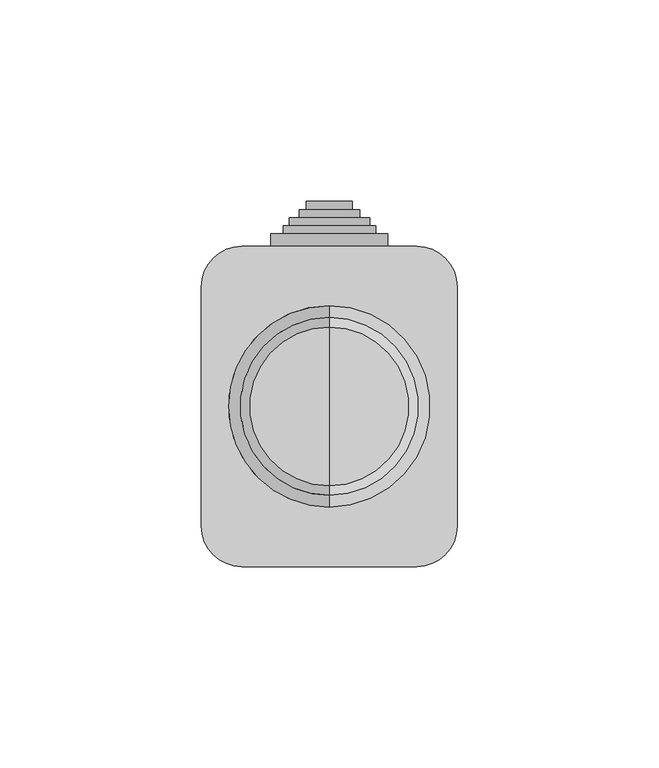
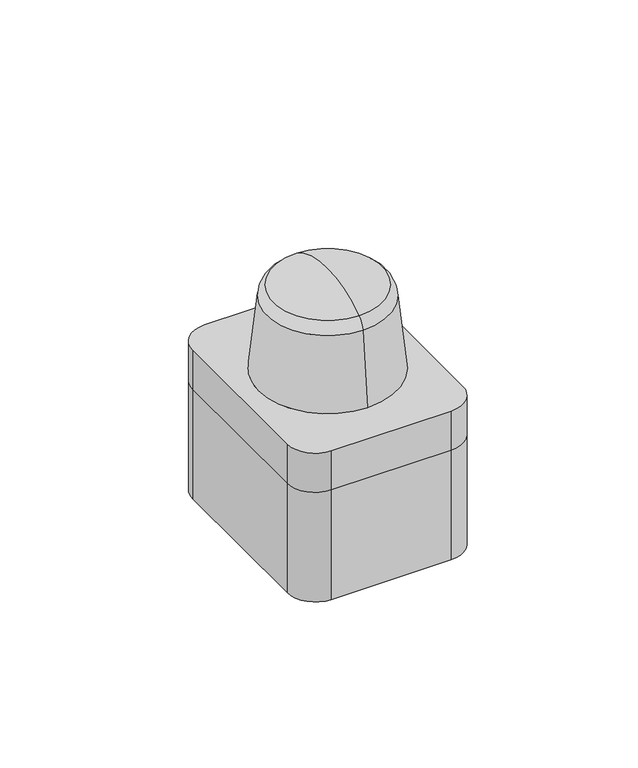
"""IFC4 building model written with IfcOpenShell, lengths in millimetres: cable carrier fitting geometry."""

from ifc_helpers import new_model, si_unit, point, frame, frame_2d, origin, origin_with_axes, place, context, project, spatial, polyline, circle_curve, ellipse_curve, trimmed, segment, composite_curve, outline, extrude, source, transform, mapped, element, save
from ifc_brep_helpers import plane_surface, cylinder_surface, revolved_surface, advanced_brep


def cable_carrier_fitting_e7482c49(model_context):
    return source(origin(), model_context, "Body", "SolidModel", [
        advanced_brep(
        [(-11.5, 37.875, 16.875), (11.5, 37.875, 16.875), (14.5, 37.875, 16.875), (-14.5, 37.875, 16.875), (-11.5, 39.875, 16.875), (11.5, 39.875, 16.875), (-14.5, 39.875, 16.875), (14.5, 39.875, 16.875), (-14.5, 42.875, 16.875), (14.5, 42.875, 16.875), (-11.5, 42.875, 16.875), (11.5, 42.875, 16.875), (-11.5, 44.875, 16.875), (11.5, 44.875, 16.875), (-10.0, 44.875, 16.875), (10.0, 44.875, 16.875), (-10.0, 46.875, 16.875), (10.0, 46.875, 16.875), (-7.5, 46.875, 16.875), (7.5, 46.875, 16.875), (-7.5, 48.875, 16.875), (7.5, 48.875, 16.875), (-5.75, 48.875, 16.875), (5.75, 48.875, 16.875), (-5.75, 50.875, 16.875), (5.75, 50.875, 16.875), (0.0, 50.875, 16.875), (-11.5, 34.875, 16.875), (11.5, 34.875, 16.875), (0.0, 34.875, 16.875), (-14.5, 35.6241137, 16.875), (14.5, 35.6241137, 16.875)],
        [
            (0, 1, circle_curve(frame((0.0, 37.875, 16.875), z_axis=(0.0, -1.0, 0.0), x_axis=(1.0, 0.0, 0.0)), 11.5)),
            (1, 2),
            (2, 3, circle_curve(frame((0.0, 37.875, 16.875), z_axis=(0.0, 1.0, 0.0), x_axis=(1.0, 0.0, 0.0)), 14.5)),
            (3, 0),
            (1, 0, circle_curve(frame((0.0, 37.875, 16.875), z_axis=(0.0, -1.0, 0.0), x_axis=(1.0, 0.0, 0.0)), 11.5)),
            (3, 2, circle_curve(frame((0.0, 37.875, 16.875), z_axis=(0.0, 1.0, 0.0), x_axis=(1.0, 0.0, 0.0)), 14.5)),
            (4, 5, circle_curve(frame((0.0, 39.875, 16.875), z_axis=(0.0, -1.0, 0.0), x_axis=(1.0, 0.0, 0.0)), 11.5)),
            (5, 1),
            (0, 4),
            (5, 4, circle_curve(frame((0.0, 39.875, 16.875), z_axis=(0.0, -1.0, 0.0), x_axis=(1.0, 0.0, 0.0)), 11.5)),
            (6, 7, circle_curve(frame((0.0, 39.875, 16.875), z_axis=(0.0, -1.0, 0.0), x_axis=(1.0, 0.0, 0.0)), 14.5)),
            (7, 5),
            (4, 6),
            (7, 6, circle_curve(frame((0.0, 39.875, 16.875), z_axis=(0.0, -1.0, 0.0), x_axis=(1.0, 0.0, 0.0)), 14.5)),
            (8, 9, circle_curve(frame((0.0, 42.875, 16.875), z_axis=(0.0, -1.0, 0.0), x_axis=(1.0, 0.0, 0.0)), 14.5)),
            (9, 7),
            (6, 8),
            (9, 8, circle_curve(frame((0.0, 42.875, 16.875), z_axis=(0.0, -1.0, 0.0), x_axis=(1.0, 0.0, 0.0)), 14.5)),
            (10, 11, circle_curve(frame((0.0, 42.875, 16.875), z_axis=(0.0, -1.0, 0.0), x_axis=(1.0, 0.0, 0.0)), 11.5)),
            (11, 9),
            (8, 10),
            (11, 10, circle_curve(frame((0.0, 42.875, 16.875), z_axis=(0.0, -1.0, 0.0), x_axis=(1.0, 0.0, 0.0)), 11.5)),
            (12, 13, circle_curve(frame((0.0, 44.875, 16.875), z_axis=(0.0, -1.0, 0.0), x_axis=(1.0, 0.0, 0.0)), 11.5)),
            (13, 11),
            (10, 12),
            (13, 12, circle_curve(frame((0.0, 44.875, 16.875), z_axis=(0.0, -1.0, 0.0), x_axis=(1.0, 0.0, 0.0)), 11.5)),
            (14, 15, circle_curve(frame((0.0, 44.875, 16.875), z_axis=(0.0, -1.0, 0.0), x_axis=(1.0, 0.0, 0.0)), 10.0)),
            (15, 13),
            (12, 14),
            (15, 14, circle_curve(frame((0.0, 44.875, 16.875), z_axis=(0.0, -1.0, 0.0), x_axis=(1.0, 0.0, 0.0)), 10.0)),
            (16, 17, circle_curve(frame((0.0, 46.875, 16.875), z_axis=(0.0, -1.0, 0.0), x_axis=(1.0, 0.0, 0.0)), 10.0)),
            (17, 15),
            (14, 16),
            (17, 16, circle_curve(frame((0.0, 46.875, 16.875), z_axis=(0.0, -1.0, 0.0), x_axis=(1.0, 0.0, 0.0)), 10.0)),
            (18, 19, circle_curve(frame((0.0, 46.875, 16.875), z_axis=(0.0, -1.0, 0.0), x_axis=(1.0, 0.0, 0.0)), 7.5)),
            (19, 17),
            (16, 18),
            (19, 18, circle_curve(frame((0.0, 46.875, 16.875), z_axis=(0.0, -1.0, 0.0), x_axis=(1.0, 0.0, 0.0)), 7.5)),
            (20, 21, circle_curve(frame((0.0, 48.875, 16.875), z_axis=(0.0, -1.0, 0.0), x_axis=(1.0, 0.0, 0.0)), 7.5)),
            (21, 19),
            (18, 20),
            (21, 20, circle_curve(frame((0.0, 48.875, 16.875), z_axis=(0.0, -1.0, 0.0), x_axis=(1.0, 0.0, 0.0)), 7.5)),
            (22, 23, circle_curve(frame((0.0, 48.875, 16.875), z_axis=(0.0, -1.0, 0.0), x_axis=(1.0, 0.0, 0.0)), 5.75)),
            (23, 21),
            (20, 22),
            (23, 22, circle_curve(frame((0.0, 48.875, 16.875), z_axis=(0.0, -1.0, 0.0), x_axis=(1.0, 0.0, 0.0)), 5.75)),
            (24, 25, circle_curve(frame((0.0, 50.875, 16.875), z_axis=(0.0, -1.0, 0.0), x_axis=(1.0, 0.0, 0.0)), 5.75)),
            (25, 23),
            (22, 24),
            (25, 24, circle_curve(frame((0.0, 50.875, 16.875), z_axis=(0.0, -1.0, 0.0), x_axis=(1.0, 0.0, 0.0)), 5.75)),
            (26, 25),
            (24, 26),
            (27, 28, circle_curve(frame((0.0, 34.875, 16.875), z_axis=(0.0, -1.0, 0.0), x_axis=(1.0, 0.0, 0.0)), 11.5)),
            (28, 29),
            (29, 27),
            (28, 27, circle_curve(frame((0.0, 34.875, 16.875), z_axis=(0.0, -1.0, 0.0), x_axis=(1.0, 0.0, 0.0)), 11.5)),
            (30, 31, circle_curve(frame((0.0, 35.6241137, 16.875), z_axis=(0.0, -1.0, 0.0), x_axis=(1.0, 0.0, 0.0)), 14.5)),
            (31, 28),
            (27, 30),
            (31, 30, circle_curve(frame((0.0, 35.6241137, 16.875), z_axis=(0.0, -1.0, 0.0), x_axis=(1.0, 0.0, 0.0)), 14.5)),
            (2, 31),
            (30, 3),
        ],
        [
            plane_surface(frame((0.0, 37.875, 16.875), z_axis=(0.0, 1.0, 0.0), x_axis=(1.0, 0.0, 0.0))),
            cylinder_surface(frame((0.0, -1475.125, 16.875), z_axis=(0.0, 1.0, 0.0), x_axis=(1.0, 0.0, 0.0)), 11.5),
            plane_surface(frame((0.0, 39.875, 16.875), z_axis=(0.0, -1.0, 0.0), x_axis=(1.0, 0.0, 0.0))),
            cylinder_surface(frame((0.0, -1475.125, 16.875), z_axis=(0.0, 1.0, 0.0), x_axis=(1.0, 0.0, 0.0)), 14.5),
            plane_surface(frame((0.0, 42.875, 16.875), z_axis=(0.0, 1.0, 0.0), x_axis=(1.0, 0.0, 0.0))),
            plane_surface(frame((0.0, 44.875, 16.875), z_axis=(0.0, 1.0, 0.0), x_axis=(1.0, 0.0, 0.0))),
            cylinder_surface(frame((0.0, -1475.125, 16.875), z_axis=(0.0, 1.0, 0.0), x_axis=(1.0, 0.0, 0.0)), 10.0),
            plane_surface(frame((0.0, 46.875, 16.875), z_axis=(0.0, 1.0, 0.0), x_axis=(1.0, 0.0, 0.0))),
            cylinder_surface(frame((0.0, -1475.125, 16.875), z_axis=(0.0, 1.0, 0.0), x_axis=(1.0, 0.0, 0.0)), 7.5),
            plane_surface(frame((0.0, 48.875, 16.875), z_axis=(0.0, 1.0, 0.0), x_axis=(1.0, 0.0, 0.0))),
            cylinder_surface(frame((0.0, -1475.125, 16.875), z_axis=(0.0, 1.0, 0.0), x_axis=(1.0, 0.0, 0.0)), 5.75),
            plane_surface(frame((0.0, 50.875, 16.875), z_axis=(0.0, 1.0, 0.0), x_axis=(1.0, 0.0, 0.0))),
            plane_surface(frame((0.0, 34.875, 16.875), z_axis=(0.0, -1.0, 0.0), x_axis=(1.0, 0.0, 0.0))),
            revolved_surface(polyline([(11.5, 34.875, 16.875), (14.5, 35.6241137, 16.875)]), (0.0, -1475.125, 16.875), (0.0, 1.0, 0.0)),
        ],
        [
            (0, [[1, 2, 3, 4]]),
            (0, [[5, -4, 6, -2]]),
            (1, [[7, 8, -1, 9]]),
            (1, [[10, -9, -5, -8]]),
            (2, [[11, 12, -7, 13]]),
            (2, [[14, -13, -10, -12]]),
            (3, [[15, 16, -11, 17]]),
            (3, [[18, -17, -14, -16]]),
            (4, [[19, 20, -15, 21]]),
            (4, [[22, -21, -18, -20]]),
            (1, [[23, 24, -19, 25]]),
            (1, [[26, -25, -22, -24]]),
            (5, [[27, 28, -23, 29]]),
            (5, [[30, -29, -26, -28]]),
            (6, [[31, 32, -27, 33]]),
            (6, [[34, -33, -30, -32]]),
            (7, [[35, 36, -31, 37]]),
            (7, [[38, -37, -34, -36]]),
            (8, [[39, 40, -35, 41]]),
            (8, [[42, -41, -38, -40]]),
            (9, [[43, 44, -39, 45]]),
            (9, [[46, -45, -42, -44]]),
            (10, [[47, 48, -43, 49]]),
            (10, [[50, -49, -46, -48]]),
            (11, [[51, -47, 52]]),
            (11, [[-52, -50, -51]]),
            (12, [[53, 54, 55]]),
            (12, [[56, -55, -54]]),
            (13, [[57, 58, -53, 59]]),
            (13, [[60, -59, -56, -58]]),
            (3, [[-3, 61, -57, 62]]),
            (3, [[-6, -62, -60, -61]]),
        ],
    ),
        advanced_brep(
        [(0.0, 19.700105, 88.994463), (0.0, -19.700105, 88.994463), (0.0, 0.0, 95.0), (0.0, 22.0683814, 84.8924881), (0.0, -22.0683814, 84.8924881), (0.0, 25.0, 57.0), (0.0, -25.0, 57.0), (-31.75, -29.75, 57.0), (-21.75, -39.75, 57.0), (21.75, -39.75, 57.0), (31.75, -29.75, 57.0), (31.75, 29.75, 57.0), (21.75, 39.75, 57.0), (-21.75, 39.75, 57.0), (-31.75, 29.75, 57.0), (-31.75, -29.75, 42.0), (-31.75, 29.75, 42.0), (-21.75, 39.75, 42.0), (21.75, 39.75, 42.0), (31.75, 29.75, 42.0), (31.75, -29.75, 42.0), (21.75, -39.75, 42.0), (-21.75, -39.75, 42.0)],
        [
            (0, 1, circle_curve(frame((0.0, 0.0, 88.994463), z_axis=(0.0, 0.0, 1.0), x_axis=(0.0, -1.0, 0.0)), 19.700105)),
            (1, 2, circle_curve(frame((0.0, -1.1522009, 63.4654632), z_axis=(-1.0, 0.0, 0.0), x_axis=(0.0, 1.0, 0.0)), 31.5555792)),
            (2, 0, circle_curve(frame((0.0, 1.1522009, 63.4654632), z_axis=(-1.0, 0.0, 0.0), x_axis=(0.0, -1.0, 0.0)), 31.5555792)),
            (1, 0, circle_curve(frame((0.0, 0.0, 88.994463), z_axis=(0.0, 0.0, 1.0), x_axis=(0.0, -1.0, 0.0)), 19.700105)),
            (0, 3, circle_curve(frame((0.0, 16.27765, 84.2838577), z_axis=(-1.0, 0.0, 0.0), x_axis=(0.0, -1.0, 0.0)), 5.8226284)),
            (3, 4, circle_curve(frame((0.0, 0.0, 84.8924881), z_axis=(0.0, 0.0, 1.0), x_axis=(0.0, -1.0, 0.0)), 22.0683814)),
            (4, 1, circle_curve(frame((0.0, -16.27765, 84.2838577), z_axis=(-1.0, 0.0, 0.0), x_axis=(0.0, 1.0, 0.0)), 5.8226284)),
            (4, 3, circle_curve(frame((0.0, 0.0, 84.8924881), z_axis=(0.0, 0.0, 1.0), x_axis=(0.0, -1.0, 0.0)), 22.0683814)),
            (3, 5),
            (5, 6, circle_curve(frame((0.0, 0.0, 57.0), z_axis=(0.0, 0.0, 1.0), x_axis=(0.0, -1.0, 0.0)), 25.0)),
            (6, 4),
            (6, 5, circle_curve(frame((0.0, 0.0, 57.0), z_axis=(0.0, 0.0, 1.0), x_axis=(0.0, -1.0, 0.0)), 25.0)),
            (7, 8, circle_curve(frame((-21.75, -29.75, 57.0), z_axis=(0.0, 0.0, 1.0), x_axis=(1.0, 0.0, 0.0)), 10.0)),
            (8, 9),
            (9, 10, circle_curve(frame((21.75, -29.75, 57.0), z_axis=(0.0, 0.0, 1.0), x_axis=(1.0, 0.0, 0.0)), 10.0)),
            (10, 11),
            (11, 12, circle_curve(frame((21.75, 29.75, 57.0), z_axis=(0.0, 0.0, 1.0), x_axis=(1.0, 0.0, 0.0)), 10.0)),
            (12, 13),
            (13, 14, circle_curve(frame((-21.75, 29.75, 57.0), z_axis=(0.0, 0.0, 1.0), x_axis=(1.0, 0.0, 0.0)), 10.0)),
            (14, 7),
            (15, 16),
            (16, 17, circle_curve(frame((-21.75, 29.75, 42.0), z_axis=(0.0, 0.0, -1.0), x_axis=(1.0, 0.0, 0.0)), 10.0)),
            (17, 18),
            (18, 19, circle_curve(frame((21.75, 29.75, 42.0), z_axis=(0.0, 0.0, -1.0), x_axis=(1.0, 0.0, 0.0)), 10.0)),
            (19, 20),
            (20, 21, circle_curve(frame((21.75, -29.75, 42.0), z_axis=(0.0, 0.0, -1.0), x_axis=(1.0, 0.0, 0.0)), 10.0)),
            (21, 22),
            (22, 15, circle_curve(frame((-21.75, -29.75, 42.0), z_axis=(0.0, 0.0, -1.0), x_axis=(1.0, 0.0, 0.0)), 10.0)),
            (7, 15),
            (22, 8),
            (21, 9),
            (20, 10),
            (19, 11),
            (18, 12),
            (17, 13),
            (16, 14),
        ],
        [
            revolved_surface(trimmed(ellipse_curve(frame((0.0, -1.1522009, 63.4654632), z_axis=(1.0, 0.0, 0.0), x_axis=(0.0, 1.0, 0.0)), 31.5555792, 31.5555792), [point((0.0, 0.0, 95.0))], [point((0.0, -19.700105, 88.994463))], True, "CARTESIAN"), (0.0, 0.0, -609.6), (0.0, 0.0, -1.0)),
            revolved_surface(trimmed(ellipse_curve(frame((0.0, -16.27765, 84.2838577), z_axis=(1.0, 0.0, 0.0), x_axis=(0.0, 1.0, 0.0)), 5.8226284, 5.8226284), [point((0.0, -19.700105, 88.994463))], [point((0.0, -22.0683814, 84.8924881))], True, "CARTESIAN"), (0.0, 0.0, -609.6), (0.0, 0.0, -1.0)),
            revolved_surface(polyline([(0.0, -22.0683814, 84.8924881), (0.0, -25.0, 57.0)]), (0.0, 0.0, -609.6), (0.0, 0.0, -1.0)),
            plane_surface(frame((-11.75, -29.75, 57.0), z_axis=(0.0, 0.0, 1.0), x_axis=(0.0, 1.0, 0.0))),
            plane_surface(frame((-11.75, -29.75, 42.0), z_axis=(0.0, 0.0, -1.0), x_axis=(0.0, -1.0, 0.0))),
            cylinder_surface(frame((-21.75, -29.75, 42.0), z_axis=(0.0, 0.0, 1.0), x_axis=(1.0, 0.0, 0.0)), 10.0),
            plane_surface(frame((-21.75, -39.75, 57.0), z_axis=(0.0, -1.0, 0.0), x_axis=(0.0, 0.0, -1.0))),
            cylinder_surface(frame((21.75, -29.75, 42.0), z_axis=(0.0, 0.0, 1.0), x_axis=(1.0, 0.0, 0.0)), 10.0),
            plane_surface(frame((31.75, -29.75, 57.0), z_axis=(1.0, 0.0, 0.0), x_axis=(0.0, 0.0, -1.0))),
            cylinder_surface(frame((21.75, 29.75, 42.0), z_axis=(0.0, 0.0, 1.0), x_axis=(1.0, 0.0, 0.0)), 10.0),
            plane_surface(frame((21.75, 39.75, 57.0), z_axis=(0.0, 1.0, 0.0), x_axis=(0.0, 0.0, -1.0))),
            cylinder_surface(frame((-21.75, 29.75, 42.0), z_axis=(0.0, 0.0, 1.0), x_axis=(1.0, 0.0, 0.0)), 10.0),
            plane_surface(frame((-31.75, 29.75, 57.0), z_axis=(-1.0, 0.0, 0.0), x_axis=(0.0, 0.0, -1.0))),
        ],
        [
            (0, [[1, 2, 3]]),
            (0, [[-2, 4, -3]]),
            (1, [[-1, 5, 6, 7]]),
            (1, [[-4, -7, 8, -5]]),
            (2, [[-6, 9, 10, 11]]),
            (2, [[-8, -11, 12, -9]]),
            (3, [[13, 14, 15, 16, 17, 18, 19, 20], [-10, -12]]),
            (4, [[21, 22, 23, 24, 25, 26, 27, 28]]),
            (5, [[-13, 29, -28, 30]]),
            (6, [[-14, -30, -27, 31]]),
            (7, [[-15, -31, -26, 32]]),
            (8, [[-16, -32, -25, 33]]),
            (9, [[-17, -33, -24, 34]]),
            (10, [[-18, -34, -23, 35]]),
            (11, [[-19, -35, -22, 36]]),
            (12, [[-20, -36, -21, -29]]),
        ],
    ),
        extrude(outline(composite_curve([segment(polyline([(-31.75, -29.75), (-31.75, 29.75)]), True, "CONTINUOUS"), segment(trimmed(circle_curve(frame_2d((-21.75, 29.75)), 10.0), [point((-31.75, 29.75))], [point((-21.75, 39.75))], False, "CARTESIAN"), True, "CONTINUOUS"), segment(polyline([(-21.75, 39.75), (21.75, 39.75)]), True, "CONTINUOUS"), segment(trimmed(circle_curve(frame_2d((21.75, 29.75)), 10.0), [point((21.75, 39.75))], [point((31.75, 29.75))], False, "CARTESIAN"), True, "CONTINUOUS"), segment(polyline([(31.75, 29.75), (31.75, -29.75)]), True, "CONTINUOUS"), segment(trimmed(circle_curve(frame_2d((21.75, -29.75)), 10.0), [point((31.75, -29.75))], [point((21.75, -39.75))], False, "CARTESIAN"), True, "CONTINUOUS"), segment(polyline([(21.75, -39.75), (-21.75, -39.75)]), True, "CONTINUOUS"), segment(trimmed(circle_curve(frame_2d((-21.75, -29.75)), 10.0), [point((-21.75, -39.75))], [point((-31.75, -29.75))], False, "CARTESIAN"), True, "CONTINUOUS")], self_intersect=False)), origin_with_axes(), (0.0, 0.0, 1.0), 42.0),
    ])


if __name__ == "__main__":
    model = new_model("IFC4")
    model_context = context("Model", 3, world=origin())
    ifc_project = project(units=[si_unit("LENGTHUNIT", "METRE", prefix="MILLI")], contexts=[model_context])
    site = spatial("IfcSite", under=ifc_project)
    building = spatial("IfcBuilding", under=site)
    placement = place(None, origin())
    cable_carrier_fitting_shape = cable_carrier_fitting_e7482c49(model_context)
    element("IfcCableCarrierFitting", 1, at=placement, inside=building, context=model_context, shape_type="MappedRepresentation", body=[
        mapped(cable_carrier_fitting_shape, transform((0.0, 0.0, 0.0), x_axis=(1.0, 0.0, 0.0), y_axis=(0.0, 1.0, 0.0), z_axis=(0.0, 0.0, 1.0))),
    ])
    save(model, "model.ifc")
